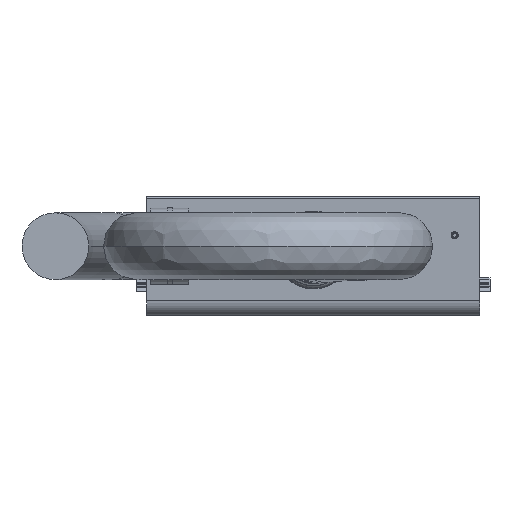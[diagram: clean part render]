
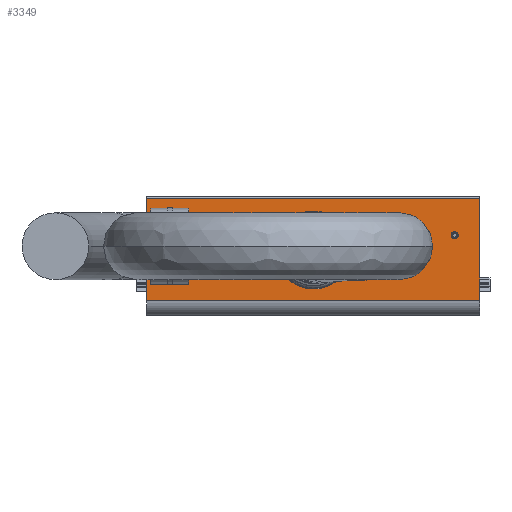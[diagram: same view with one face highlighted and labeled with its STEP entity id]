
A CAD part, front view. The second image highlights one B-rep face of the part: STEP entity #3349.
In plain terms, the highlighted planar face has unit normal (0, -1, 0).
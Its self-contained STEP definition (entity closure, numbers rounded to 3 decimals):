
#375=CARTESIAN_POINT('',(0.,0.,-112.96));
#376=DIRECTION('',(0.,1.,0.));
#377=DIRECTION('',(0.,0.,-1.));
#378=AXIS2_PLACEMENT_3D('',#375,#376,#377);
#397=CARTESIAN_POINT('',(0.,0.,-112.96));
#398=DIRECTION('',(0.,-1.,0.));
#399=DIRECTION('',(0.,0.,-1.));
#400=AXIS2_PLACEMENT_3D('',#397,#398,#399);
#405=DIRECTION('',(1.,0.,0.));
#406=VECTOR('',#405,698.);
#407=CARTESIAN_POINT('',(-349.,0.,-5.));
#408=LINE('',#407,#406);
#412=CARTESIAN_POINT('',(296.,0.,-81.96));
#413=DIRECTION('',(0.,1.,0.));
#414=DIRECTION('',(0.,0.,-1.));
#415=AXIS2_PLACEMENT_3D('',#412,#413,#414);
#420=CARTESIAN_POINT('',(296.,0.,-81.96));
#421=DIRECTION('',(0.,1.,0.));
#422=DIRECTION('',(0.,0.,1.));
#423=AXIS2_PLACEMENT_3D('',#420,#421,#422);
#428=CARTESIAN_POINT('',(-296.,0.,-81.96));
#429=DIRECTION('',(0.,1.,0.));
#430=DIRECTION('',(0.,0.,-1.));
#431=AXIS2_PLACEMENT_3D('',#428,#429,#430);
#436=CARTESIAN_POINT('',(-296.,0.,-81.96));
#437=DIRECTION('',(0.,1.,0.));
#438=DIRECTION('',(0.,0.,1.));
#439=AXIS2_PLACEMENT_3D('',#436,#437,#438);
#489=DIRECTION('',(0.,0.,-1.));
#490=VECTOR('',#489,213.);
#491=CARTESIAN_POINT('',(-349.,0.,-5.));
#492=LINE('',#491,#490);
#781=DIRECTION('',(0.,0.,-1.));
#782=VECTOR('',#781,213.);
#783=CARTESIAN_POINT('',(349.,0.,-5.));
#784=LINE('',#783,#782);
#935=DIRECTION('',(1.,0.,0.));
#936=VECTOR('',#935,698.);
#937=CARTESIAN_POINT('',(-349.,0.,-218.));
#938=LINE('',#937,#936);
#2530=CARTESIAN_POINT('',(0.,0.,-192.96));
#2532=VERTEX_POINT('',#2530);
#2554=CARTESIAN_POINT('',(0.,0.,-32.96));
#2556=VERTEX_POINT('',#2554);
#2616=CARTESIAN_POINT('',(-349.,0.,-5.));
#2617=VERTEX_POINT('',#2616);
#2618=CARTESIAN_POINT('',(-349.,0.,-218.));
#2619=VERTEX_POINT('',#2618);
#2652=CARTESIAN_POINT('',(349.,0.,-5.));
#2653=VERTEX_POINT('',#2652);
#2654=CARTESIAN_POINT('',(349.,0.,-218.));
#2655=VERTEX_POINT('',#2654);
#2862=CARTESIAN_POINT('',(296.,0.,-89.466));
#2863=CARTESIAN_POINT('',(296.,0.,-74.455));
#2864=VERTEX_POINT('',#2862);
#2865=VERTEX_POINT('',#2863);
#2886=CARTESIAN_POINT('',(-296.,0.,-89.466));
#2887=CARTESIAN_POINT('',(-296.,0.,-74.455));
#2888=VERTEX_POINT('',#2886);
#2889=VERTEX_POINT('',#2887);
#3318=CARTESIAN_POINT('',(0.,0.,-112.96));
#3319=DIRECTION('',(0.,1.,0.));
#3320=DIRECTION('',(0.,0.,-1.));
#3321=AXIS2_PLACEMENT_3D('',#3318,#3319,#3320);
#3322=PLANE('',#3321);
#3324=ORIENTED_EDGE('',*,*,#3323,.F.);
#3326=ORIENTED_EDGE('',*,*,#3325,.T.);
#3328=ORIENTED_EDGE('',*,*,#3327,.T.);
#3330=ORIENTED_EDGE('',*,*,#3329,.F.);
#3331=EDGE_LOOP('',(#3324,#3326,#3328,#3330));
#3332=FACE_OUTER_BOUND('',#3331,.F.);
#3333=ORIENTED_EDGE('',*,*,#3313,.T.);
#3334=ORIENTED_EDGE('',*,*,#3297,.F.);
#3335=EDGE_LOOP('',(#3333,#3334));
#3336=FACE_BOUND('',#3335,.F.);
#3338=ORIENTED_EDGE('',*,*,#3337,.F.);
#3340=ORIENTED_EDGE('',*,*,#3339,.F.);
#3341=EDGE_LOOP('',(#3338,#3340));
#3342=FACE_BOUND('',#3341,.F.);
#3344=ORIENTED_EDGE('',*,*,#3343,.F.);
#3346=ORIENTED_EDGE('',*,*,#3345,.F.);
#3347=EDGE_LOOP('',(#3344,#3346));
#3348=FACE_BOUND('',#3347,.F.);
#379=CIRCLE('',#378,80.);
#401=CIRCLE('',#400,80.);
#416=CIRCLE('',#415,7.506);
#424=CIRCLE('',#423,7.506);
#432=CIRCLE('',#431,7.506);
#440=CIRCLE('',#439,7.506);
#3297=EDGE_CURVE('',#2532,#2556,#379,.T.);
#3313=EDGE_CURVE('',#2532,#2556,#401,.T.);
#3323=EDGE_CURVE('',#2617,#2619,#492,.T.);
#3325=EDGE_CURVE('',#2617,#2653,#408,.T.);
#3327=EDGE_CURVE('',#2653,#2655,#784,.T.);
#3329=EDGE_CURVE('',#2619,#2655,#938,.T.);
#3337=EDGE_CURVE('',#2864,#2865,#416,.T.);
#3339=EDGE_CURVE('',#2865,#2864,#424,.T.);
#3343=EDGE_CURVE('',#2888,#2889,#432,.T.);
#3345=EDGE_CURVE('',#2889,#2888,#440,.T.);
#3349=ADVANCED_FACE('',(#3332,#3336,#3342,#3348),#3322,.F.);
